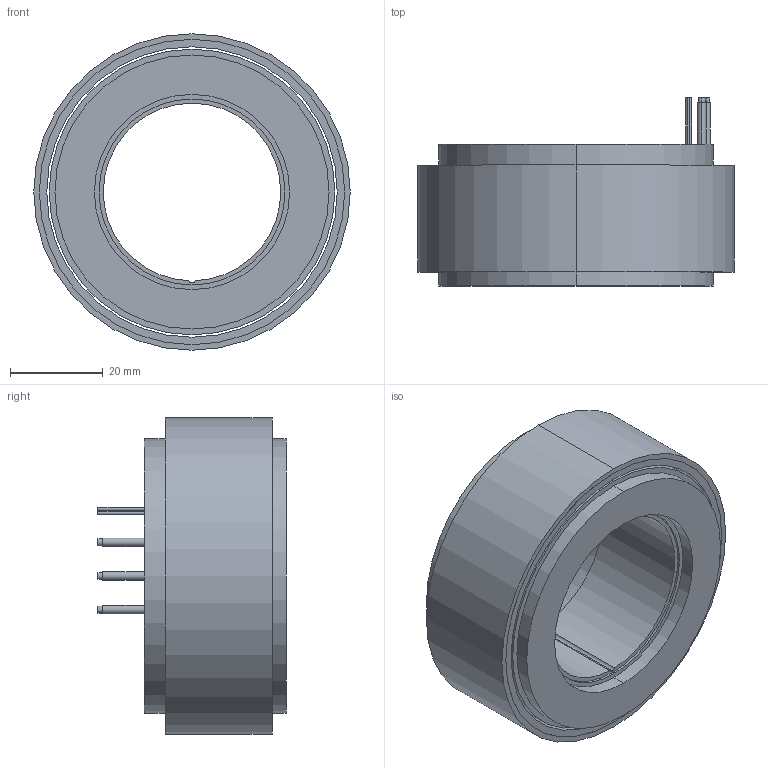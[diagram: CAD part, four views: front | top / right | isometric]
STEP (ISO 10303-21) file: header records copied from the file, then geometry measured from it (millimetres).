
FILE_DESCRIPTION (( 'STEP AP214' ), '1' );
FILE_NAME ('UE6830µç»ú.STEP', '2026-03-10T08:17:51', ( 'Windows User' ), ( 'P R C' ), 'SwSTEP 2.0', 'SolidWorks 2023', '' );
FILE_SCHEMA (( 'AUTOMOTIVE_DESIGN' ));
Length unit declared in the file: millimetre
Products named in the file (1): UE6830电机
Bounding box: 68.1 x 40.5 x 68.1 mm (x, y, z)
Volume: 65245.7 mm3; surface area: 24048.7 mm2
Topology: 2 solids, 2 shells, 61 faces, 123 edges, 82 vertices
Faces by surface type: cylinder 41, plane 20
Entity records: 1679 total; most frequent: DIRECTION 329, CARTESIAN_POINT 267, ORIENTED_EDGE 246, AXIS2_PLACEMENT_3D 144, EDGE_CURVE 123, CIRCLE 82, VERTEX_POINT 82, EDGE_LOOP 81
